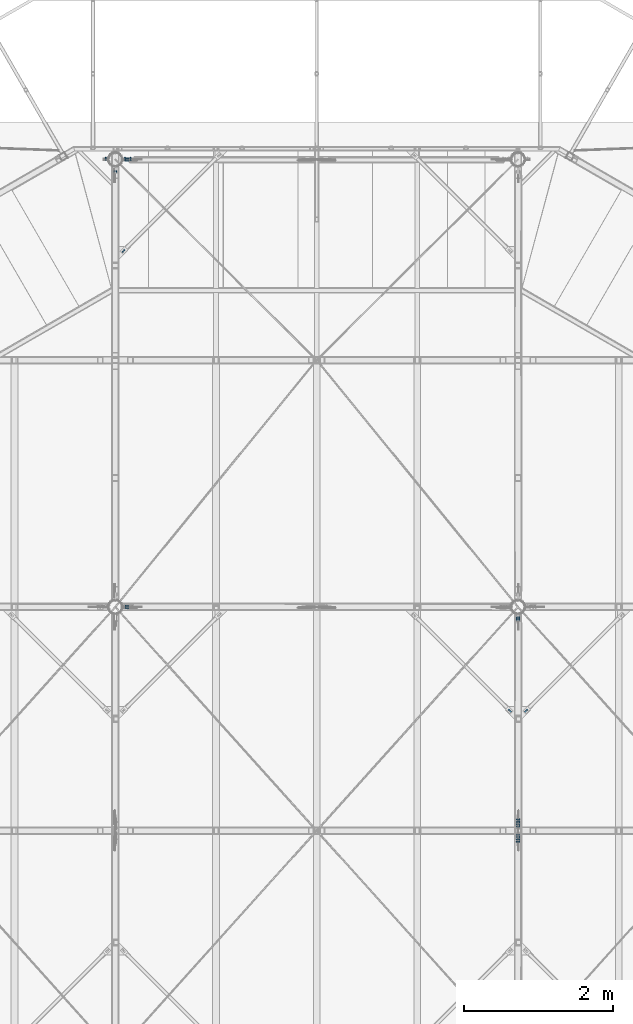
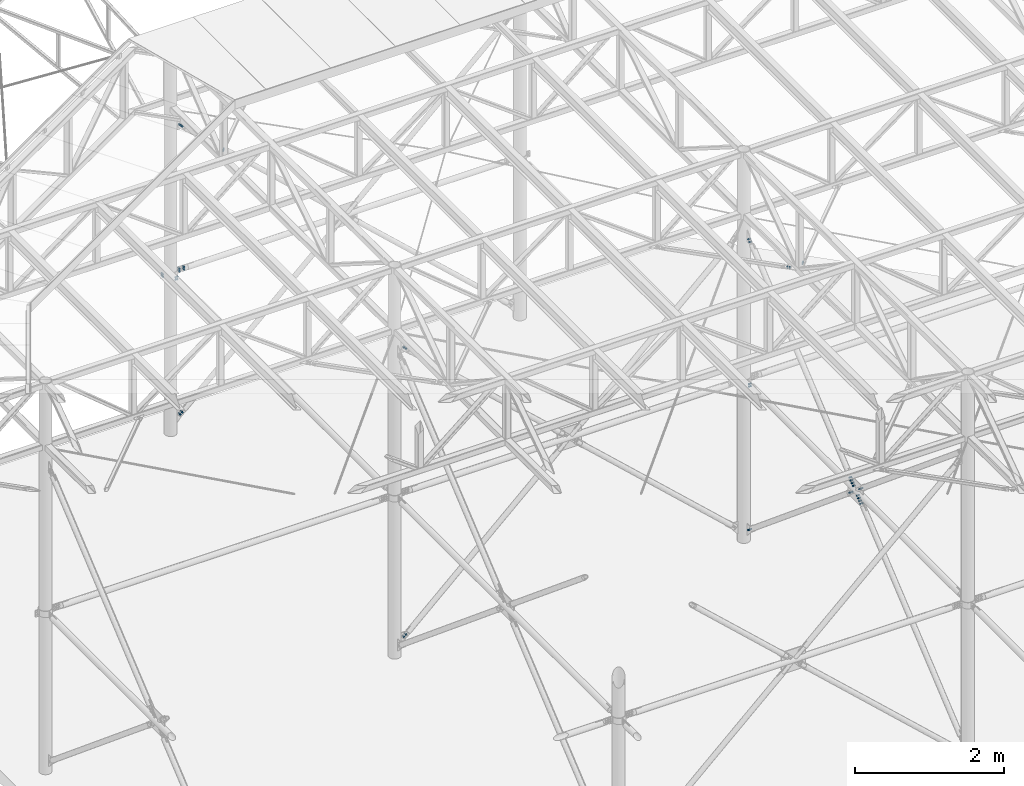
# One storey, part 122 of 132: 25 mechanical fasteners, 19 elements without a shape of their own.
"""IFC2X3 building model written with IfcOpenShell, lengths in millimetres."""

from ifc_helpers import new_model, si_unit, frame, origin_with_axes, origin_2d_with_axis, place, context, subcontext, project, spatial, polyline, circle, outline, extrude, source, transform, mapped, material, type_object, element, aggregate, save


model = new_model("IFC2X3")

# Units and contexts
model_context = context("Model", 3, precision=1e-05, world=origin_with_axes())
body_context = subcontext(model_context, "Body", "Model", "MODEL_VIEW")
ifc_project = project(units=[si_unit("LENGTHUNIT", "METRE", prefix="MILLI"), si_unit("AREAUNIT", "SQUARE_METRE"), si_unit("VOLUMEUNIT", "CUBIC_METRE"), si_unit("MASSUNIT", "GRAM", prefix="KILO"), si_unit("TIMEUNIT", "SECOND"), si_unit("PLANEANGLEUNIT", "RADIAN"), si_unit("SOLIDANGLEUNIT", "STERADIAN"), si_unit("THERMODYNAMICTEMPERATUREUNIT", "DEGREE_CELSIUS"), si_unit("LUMINOUSINTENSITYUNIT", "LUMEN")], contexts=[model_context])

# Site, building, storey
site_placement = place(None, origin_with_axes())
site = spatial("IfcSite", under=ifc_project, at=site_placement, Name="Budowa", CompositionType="ELEMENT")
building_placement = place(site_placement, origin_with_axes())
building = spatial("IfcBuilding", under=site, at=building_placement, Name="Undefined", CompositionType="ELEMENT")
storey_placement = place(building_placement, origin_with_axes())
storey = spatial("IfcBuildingStorey", under=building, at=storey_placement, Name="Undefined", CompositionType="ELEMENT", Elevation=0.0)

# Assembly, mechanical fastener
assembly_1_placement = place(storey_placement, origin_with_axes())
assembly_1 = element("IfcElementAssembly", 1, at=assembly_1_placement, inside=storey, Name="Steel Assembly", AssemblyPlace="NOTDEFINED", PredefinedType="RIGID_FRAME")
ifc_material = material(Name="Undefined")
discrete_accessory_type = type_object("IfcDiscreteAccessoryType", Name="Bolt assembly")
shared_shape_1 = source(origin_with_axes(), body_context, "Body", "SweptSolid", [
    extrude(circle(Radius=9.5, at=origin_2d_with_axis()), frame((0.0, -2.10099750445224, 0.0), z_axis=(0.0, 1.0, 0.0), x_axis=(1.0, 0.0, 0.0)), (0.0, 0.0, 1.0), 8.1),
    extrude(circle(Radius=9.5, at=origin_2d_with_axis()), frame((0.0, -9.9, 0.0), z_axis=(0.0, 1.0, 0.0), x_axis=(1.0, 0.0, 0.0)), (0.0, 0.0, 1.0), 8.0),
    extrude(outline(polyline([(13.85640646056, 0.0), (6.92820323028, 12.0000000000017), (-6.92820323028, 12.0000000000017), (-13.85640646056, 0.0), (-6.92820323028, -12.0000000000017), (6.92820323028, -12.0000000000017), (13.85640646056, 0.0)])), frame((0.0, -23.0, 0.0), z_axis=(0.0, 1.0, 0.0), x_axis=(1.0, 0.0, 0.0)), (0.0, 0.0, 1.0), 10.0),
    extrude(circle(Radius=8.0, at=origin_2d_with_axis()), frame((0.0, -13.0, 0.0), z_axis=(0.0, 1.0, 0.0), x_axis=(1.0, 0.0, 0.0)), (0.0, 0.0, 1.0), 45.0),
    extrude(circle(Radius=15.0, at=origin_2d_with_axis()), frame((0.0, -13.0, 0.0), z_axis=(0.0, 1.0, 0.0), x_axis=(1.0, 0.0, 0.0)), (0.0, 0.0, 1.0), 3.0),
    extrude(circle(Radius=15.0, at=origin_2d_with_axis()), frame((0.0, 5.99900249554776, 0.0), z_axis=(0.0, 1.0, 0.0), x_axis=(1.0, 0.0, 0.0)), (0.0, 0.0, 1.0), 3.0),
    extrude(outline(polyline([(13.85640646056, 0.0), (6.92820323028, 12.0000000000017), (-6.92820323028, 12.0000000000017), (-13.85640646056, 0.0), (-6.92820323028, -12.0000000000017), (6.92820323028, -12.0000000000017), (13.85640646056, 0.0)])), frame((0.0, 8.99900249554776, 0.0), z_axis=(0.0, 1.0, 0.0), x_axis=(1.0, 0.0, 0.0)), (0.0, 0.0, 1.0), 13.0),
])
mechanical_fastener_1_placement = place(assembly_1_placement, frame((9565.67385217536, 23997.9999975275, 12480.2102217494), z_axis=(0.678551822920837, 0.0, 0.734552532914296), x_axis=(0.734552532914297, 0.0, -0.678551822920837)))
mechanical_fastener_1 = element("IfcMechanicalFastener", 2, at=mechanical_fastener_1_placement, type_object=discrete_accessory_type, material=ifc_material, Name="Bolt assembly", NominalDiameter=16.0, NominalLength=45.0, context=body_context, shape_type="MappedRepresentation", body=[
    mapped(shared_shape_1, transform((0.0, 0.0, 0.0))),
    mapped(shared_shape_1, transform((40.0000000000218, 0.0, -1.81898940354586e-12))),
])

assembly_2_placement = place(storey_placement, origin_with_axes())
assembly_2 = element("IfcElementAssembly", 3, at=assembly_2_placement, inside=storey, Name="Steel Assembly", AssemblyPlace="NOTDEFINED", PredefinedType="RIGID_FRAME")
mechanical_fastener_2_placement = place(assembly_2_placement, frame((9565.67385240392, 23997.9999976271, 7751.79053481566), z_axis=(-0.678551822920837, 0.0, 0.734552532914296), x_axis=(0.734552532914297, 0.0, 0.678551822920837)))
mechanical_fastener_2 = element("IfcMechanicalFastener", 4, at=mechanical_fastener_2_placement, type_object=discrete_accessory_type, material=ifc_material, Name="Bolt assembly", NominalDiameter=16.0, NominalLength=45.0, context=body_context, shape_type="MappedRepresentation", body=[
    mapped(shared_shape_1, transform((0.0, 0.0, 0.0))),
    mapped(shared_shape_1, transform((40.0000000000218, 0.0, -1.81898940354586e-12))),
])

assembly_3_placement = place(storey_placement, origin_with_axes())
assembly_3 = element("IfcElementAssembly", 5, at=assembly_3_placement, inside=storey, Name="Steel Assembly", AssemblyPlace="NOTDEFINED", PredefinedType="RIGID_FRAME")
shared_shape_2 = source(origin_with_axes(), body_context, "Body", "SweptSolid", [
    extrude(circle(Radius=9.5, at=origin_2d_with_axis()), frame((0.0, -2.1, 0.0), z_axis=(0.0, 1.0, 0.0), x_axis=(1.0, 0.0, 0.0)), (0.0, 0.0, 1.0), 8.1),
    extrude(circle(Radius=9.5, at=origin_2d_with_axis()), frame((0.0, -11.9, 0.0), z_axis=(0.0, 1.0, 0.0), x_axis=(1.0, 0.0, 0.0)), (0.0, 0.0, 1.0), 8.0),
    extrude(outline(polyline([(13.85640646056, 0.0), (6.92820323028, 12.0000000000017), (-6.92820323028, 12.0000000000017), (-13.85640646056, 0.0), (-6.92820323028, -12.0000000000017), (6.92820323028, -12.0000000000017), (13.85640646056, 0.0)])), frame((0.0, -25.0, 0.0), z_axis=(0.0, 1.0, 0.0), x_axis=(1.0, 0.0, 0.0)), (0.0, 0.0, 1.0), 10.0),
    extrude(circle(Radius=8.0, at=origin_2d_with_axis()), frame((0.0, -15.0, 0.0), z_axis=(0.0, 1.0, 0.0), x_axis=(1.0, 0.0, 0.0)), (0.0, 0.0, 1.0), 45.0),
    extrude(circle(Radius=15.0, at=origin_2d_with_axis()), frame((0.0, -15.0, 0.0), z_axis=(0.0, 1.0, 0.0), x_axis=(1.0, 0.0, 0.0)), (0.0, 0.0, 1.0), 3.0),
    extrude(circle(Radius=15.0, at=origin_2d_with_axis()), frame((0.0, 6.0, 0.0), z_axis=(0.0, 1.0, 0.0), x_axis=(1.0, 0.0, 0.0)), (0.0, 0.0, 1.0), 3.0),
    extrude(outline(polyline([(13.85640646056, 0.0), (6.92820323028, 12.0000000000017), (-6.92820323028, 12.0000000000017), (-13.85640646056, 0.0), (-6.92820323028, -12.0000000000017), (6.92820323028, -12.0000000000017), (13.85640646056, 0.0)])), frame((0.0, 9.0, 0.0), z_axis=(0.0, 1.0, 0.0), x_axis=(1.0, 0.0, 0.0)), (0.0, 0.0, 1.0), 13.0),
])
mechanical_fastener_3_placement = place(assembly_3_placement, frame((9565.67385240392, 23997.9999976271, 7751.79053481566), z_axis=(-0.678551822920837, 0.0, 0.734552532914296), x_axis=(0.734552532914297, 0.0, 0.678551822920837)))
mechanical_fastener_3 = element("IfcMechanicalFastener", 6, at=mechanical_fastener_3_placement, type_object=discrete_accessory_type, material=ifc_material, Name="Bolt assembly", NominalDiameter=16.0, NominalLength=45.0, context=body_context, shape_type="MappedRepresentation", body=[
    mapped(shared_shape_2, transform((0.0, 0.0, 0.0))),
    mapped(shared_shape_2, transform((40.0000000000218, 0.0, -1.81898940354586e-12))),
])
aggregate(assembly_3, [mechanical_fastener_3])

assembly_4_placement = place(storey_placement, origin_with_axes())
assembly_4 = element("IfcElementAssembly", 7, at=assembly_4_placement, inside=storey, Name="Steel Assembly", AssemblyPlace="NOTDEFINED", PredefinedType="RIGID_FRAME")
mechanical_fastener_4_placement = place(assembly_4_placement, frame((9565.67385217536, 23997.9999975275, 12480.2102217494), z_axis=(0.678551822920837, 0.0, 0.734552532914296), x_axis=(0.734552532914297, 0.0, -0.678551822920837)))
mechanical_fastener_4 = element("IfcMechanicalFastener", 8, at=mechanical_fastener_4_placement, type_object=discrete_accessory_type, material=ifc_material, Name="Bolt assembly", NominalDiameter=16.0, NominalLength=45.0, context=body_context, shape_type="MappedRepresentation", body=[
    mapped(shared_shape_2, transform((0.0, 0.0, 0.0))),
    mapped(shared_shape_2, transform((40.0000000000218, 0.0, -1.81898940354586e-12))),
])
aggregate(assembly_4, [mechanical_fastener_4])

assembly_5_placement = place(storey_placement, origin_with_axes())
assembly_5 = element("IfcElementAssembly", 9, at=assembly_5_placement, inside=storey, Name="Steel Assembly", AssemblyPlace="NOTDEFINED", PredefinedType="RIGID_FRAME")
shared_shape_3 = source(origin_with_axes(), body_context, "Body", "SweptSolid", [
    extrude(circle(Radius=9.5, at=origin_2d_with_axis()), frame((0.0, -4.09999999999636, 0.0), z_axis=(0.0, 1.0, 0.0), x_axis=(1.0, 0.0, 0.0)), (0.0, 0.0, 1.0), 8.1),
    extrude(circle(Radius=9.5, at=origin_2d_with_axis()), frame((0.0, -11.9, 0.0), z_axis=(0.0, 1.0, 0.0), x_axis=(1.0, 0.0, 0.0)), (0.0, 0.0, 1.0), 8.0),
    extrude(outline(polyline([(13.85640646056, 0.0), (6.92820323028, 12.0000000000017), (-6.92820323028, 12.0000000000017), (-13.85640646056, 0.0), (-6.92820323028, -12.0000000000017), (6.92820323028, -12.0000000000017), (13.85640646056, 0.0)])), frame((0.0, -25.0, 0.0), z_axis=(0.0, 1.0, 0.0), x_axis=(1.0, 0.0, 0.0)), (0.0, 0.0, 1.0), 10.0),
    extrude(circle(Radius=8.0, at=origin_2d_with_axis()), frame((0.0, -15.0, 0.0), z_axis=(0.0, 1.0, 0.0), x_axis=(1.0, 0.0, 0.0)), (0.0, 0.0, 1.0), 40.0),
    extrude(circle(Radius=15.0, at=origin_2d_with_axis()), frame((0.0, -15.0, 0.0), z_axis=(0.0, 1.0, 0.0), x_axis=(1.0, 0.0, 0.0)), (0.0, 0.0, 1.0), 3.0),
    extrude(circle(Radius=15.0, at=origin_2d_with_axis()), frame((0.0, 4.0, 0.0), z_axis=(0.0, 1.0, 0.0), x_axis=(1.0, 0.0, 0.0)), (0.0, 0.0, 1.0), 3.0),
    extrude(outline(polyline([(13.85640646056, 0.0), (6.92820323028, 12.0000000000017), (-6.92820323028, 12.0000000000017), (-13.85640646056, 0.0), (-6.92820323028, -12.0000000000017), (6.92820323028, -12.0000000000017), (13.85640646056, 0.0)])), frame((0.0, 7.0, 0.0), z_axis=(0.0, 1.0, 0.0), x_axis=(1.0, 0.0, 0.0)), (0.0, 0.0, 1.0), 13.0),
])
mechanical_fastener_5_placement = place(assembly_5_placement, frame((14824.9999991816, 14882.440705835, 10018.2969084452), z_axis=(0.0, 0.639165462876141, -0.769069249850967), x_axis=(0.0, -0.769069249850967, -0.639165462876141)))
mechanical_fastener_5 = element("IfcMechanicalFastener", 10, at=mechanical_fastener_5_placement, type_object=discrete_accessory_type, material=ifc_material, Name="Bolt assembly", NominalDiameter=16.0, NominalLength=40.0, context=body_context, shape_type="MappedRepresentation", body=[
    mapped(shared_shape_3, transform((0.0, 0.0, 0.0))),
    mapped(shared_shape_3, transform((40.0000000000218, 0.0, -1.81898940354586e-12))),
])
aggregate(assembly_5, [mechanical_fastener_5])

assembly_6_placement = place(storey_placement, origin_with_axes())
assembly_6 = element("IfcElementAssembly", 11, at=assembly_6_placement, inside=storey, Name="Steel Assembly", AssemblyPlace="NOTDEFINED", PredefinedType="RIGID_FRAME")
mechanical_fastener_6_placement = place(assembly_6_placement, frame((14824.9999991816, 15117.5614380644, 10018.2969140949), z_axis=(0.0, 0.639165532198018, 0.76906919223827), x_axis=(0.0, 0.769069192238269, -0.639165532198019)))
mechanical_fastener_6 = element("IfcMechanicalFastener", 12, at=mechanical_fastener_6_placement, type_object=discrete_accessory_type, material=ifc_material, Name="Bolt assembly", NominalDiameter=16.0, NominalLength=40.0, context=body_context, shape_type="MappedRepresentation", body=[
    mapped(shared_shape_3, transform((0.0, 0.0, 0.0))),
    mapped(shared_shape_3, transform((40.0000000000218, 0.0, -1.81898940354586e-12))),
])

assembly_7_placement = place(storey_placement, origin_with_axes())
assembly_7 = element("IfcElementAssembly", 13, at=assembly_7_placement, inside=storey, Name="Steel Assembly", AssemblyPlace="NOTDEFINED", PredefinedType="RIGID_FRAME")
mechanical_fastener_7_placement = place(assembly_7_placement, frame((14824.9999994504, 15117.562089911, 10213.7038472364), z_axis=(0.0, -0.639165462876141, 0.769069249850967), x_axis=(0.0, 0.769069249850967, 0.639165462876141)))
mechanical_fastener_7 = element("IfcMechanicalFastener", 14, at=mechanical_fastener_7_placement, type_object=discrete_accessory_type, material=ifc_material, Name="Bolt assembly", NominalDiameter=16.0, NominalLength=40.0, context=body_context, shape_type="MappedRepresentation", body=[
    mapped(shared_shape_3, transform((0.0, 0.0, 0.0))),
    mapped(shared_shape_3, transform((40.0000000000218, 0.0, -1.81898940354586e-12))),
])

assembly_8_placement = place(storey_placement, origin_with_axes())
assembly_8 = element("IfcElementAssembly", 15, at=assembly_8_placement, inside=storey, Name="Steel Assembly", AssemblyPlace="NOTDEFINED", PredefinedType="RIGID_FRAME")
mechanical_fastener_8_placement = place(assembly_8_placement, frame((14824.9999994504, 14882.4401083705, 10213.7038442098), z_axis=(0.0, -0.63916553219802, -0.769069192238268), x_axis=(0.0, -0.76906919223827, 0.639165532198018)))
mechanical_fastener_8 = element("IfcMechanicalFastener", 16, at=mechanical_fastener_8_placement, type_object=discrete_accessory_type, material=ifc_material, Name="Bolt assembly", NominalDiameter=16.0, NominalLength=40.0, context=body_context, shape_type="MappedRepresentation", body=[
    mapped(shared_shape_3, transform((0.0, 0.0, 0.0))),
    mapped(shared_shape_3, transform((40.0000000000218, 0.0, -1.81898940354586e-12))),
])
aggregate(assembly_8, [mechanical_fastener_8])

# Mechanical fastener
shared_shape_4 = source(origin_with_axes(), body_context, "Body", "SweptSolid", [
    extrude(circle(Radius=9.0, at=origin_2d_with_axis()), frame((0.0, 0.0, 0.0), z_axis=(0.0, 1.0, 0.0), x_axis=(1.0, 0.0, 0.0)), (0.0, 0.0, 1.0), 8.1),
    extrude(outline(polyline([(13.85640646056, 0.0), (6.92820323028, 12.0000000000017), (-6.92820323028, 12.0000000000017), (-13.85640646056, 0.0), (-6.92820323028, -12.0000000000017), (6.92820323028, -12.0000000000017), (13.85640646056, 0.0)])), frame((0.0, -13.0, 0.0), z_axis=(0.0, 1.0, 0.0), x_axis=(1.0, 0.0, 0.0)), (0.0, 0.0, 1.0), 10.0),
    extrude(circle(Radius=8.0, at=origin_2d_with_axis()), frame((0.0, -2.99999999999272, 0.0), z_axis=(0.0, 1.0, 0.0), x_axis=(1.0, 0.0, 0.0)), (0.0, 0.0, 1.0), 40.0),
    extrude(circle(Radius=15.0, at=origin_2d_with_axis()), frame((0.0, -2.99999999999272, 0.0), z_axis=(0.0, 1.0, 0.0), x_axis=(1.0, 0.0, 0.0)), (0.0, 0.0, 1.0), 3.0),
    extrude(circle(Radius=15.0, at=origin_2d_with_axis()), frame((0.0, 8.00000000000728, 0.0), z_axis=(0.0, 1.0, 0.0), x_axis=(1.0, 0.0, 0.0)), (0.0, 0.0, 1.0), 3.0),
    extrude(outline(polyline([(13.85640646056, 0.0), (6.92820323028, 12.0000000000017), (-6.92820323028, 12.0000000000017), (-13.85640646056, 0.0), (-6.92820323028, -12.0000000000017), (6.92820323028, -12.0000000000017), (13.85640646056, 0.0)])), frame((0.0, 11.0000000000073, 0.0), z_axis=(0.0, 1.0, 0.0), x_axis=(1.0, 0.0, 0.0)), (0.0, 0.0, 1.0), 13.0),
])
mechanical_fastener_9_placement = place(assembly_2_placement, frame((9628.13669408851, 23993.9999994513, 10096.0003779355), z_axis=(-1.0, 0.0, 0.0), x_axis=(0.0, 0.0, 1.0)))
mechanical_fastener_9 = element("IfcMechanicalFastener", 17, at=mechanical_fastener_9_placement, type_object=discrete_accessory_type, material=ifc_material, Name="Bolt assembly", NominalDiameter=16.0, NominalLength=40.0, context=body_context, shape_type="MappedRepresentation", body=[
    mapped(shared_shape_4, transform((0.0, 0.0, 0.0))),
    mapped(shared_shape_4, transform((40.0000000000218, 0.0, -1.81898940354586e-12))),
])

# Assembly, mechanical fastener
assembly_9_placement = place(storey_placement, origin_with_axes())
assembly_9 = element("IfcElementAssembly", 18, at=assembly_9_placement, inside=storey, Name="Steel Assembly", AssemblyPlace="NOTDEFINED", PredefinedType="RIGID_FRAME")
shared_shape_5 = source(origin_with_axes(), body_context, "Body", "SweptSolid", [
    extrude(circle(Radius=9.0, at=origin_2d_with_axis()), frame((0.0, 0.0999999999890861, 0.0), z_axis=(0.0, 1.0, 0.0), x_axis=(1.0, 0.0, 0.0)), (0.0, 0.0, 1.0), 8.0),
    extrude(circle(Radius=9.0, at=origin_2d_with_axis()), frame((0.0, 11.9000000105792, 0.0), z_axis=(0.0, 1.0, 0.0), x_axis=(1.0, 0.0, 0.0)), (0.0, 0.0, 1.0), 8.1),
    extrude(outline(polyline([(13.85640646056, 0.0), (6.92820323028, 12.0000000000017), (-6.92820323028, 12.0000000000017), (-13.85640646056, 0.0), (-6.92820323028, -12.0000000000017), (6.92820323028, -12.0000000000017), (13.85640646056, 0.0)])), frame((0.0, -13.0, 0.0), z_axis=(0.0, 1.0, 0.0), x_axis=(1.0, 0.0, 0.0)), (0.0, 0.0, 1.0), 10.0),
    extrude(circle(Radius=8.0, at=origin_2d_with_axis()), frame((0.0, -2.99999999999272, 0.0), z_axis=(0.0, 1.0, 0.0), x_axis=(1.0, 0.0, 0.0)), (0.0, 0.0, 1.0), 45.0),
    extrude(circle(Radius=15.0, at=origin_2d_with_axis()), frame((0.0, -2.99999999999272, 0.0), z_axis=(0.0, 1.0, 0.0), x_axis=(1.0, 0.0, 0.0)), (0.0, 0.0, 1.0), 3.0),
    extrude(circle(Radius=15.0, at=origin_2d_with_axis()), frame((0.0, 20.0000000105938, 0.0), z_axis=(0.0, 1.0, 0.0), x_axis=(1.0, 0.0, 0.0)), (0.0, 0.0, 1.0), 3.0),
    extrude(outline(polyline([(13.85640646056, 0.0), (6.92820323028, 12.0000000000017), (-6.92820323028, 12.0000000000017), (-13.85640646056, 0.0), (-6.92820323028, -12.0000000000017), (6.92820323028, -12.0000000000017), (13.85640646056, 0.0)])), frame((0.0, 23.0000000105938, 0.0), z_axis=(0.0, 1.0, 0.0), x_axis=(1.0, 0.0, 0.0)), (0.0, 0.0, 1.0), 13.0),
])
mechanical_fastener_10_placement = place(assembly_9_placement, frame((9296.86328710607, 23990.000000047, 10096.0003779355), z_axis=(-1.0, 0.0, 0.0), x_axis=(0.0, 0.0, 1.0)))
mechanical_fastener_10 = element("IfcMechanicalFastener", 19, at=mechanical_fastener_10_placement, type_object=discrete_accessory_type, material=ifc_material, Name="Bolt assembly", NominalDiameter=16.0, NominalLength=45.0, context=body_context, shape_type="MappedRepresentation", body=[
    mapped(shared_shape_5, transform((0.0, 0.0, 0.0))),
    mapped(shared_shape_5, transform((40.0000000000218, 0.0, -1.81898940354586e-12))),
])

assembly_10_placement = place(storey_placement, origin_with_axes())
assembly_10 = element("IfcElementAssembly", 20, at=assembly_10_placement, inside=storey, Name="Steel Assembly", AssemblyPlace="NOTDEFINED", PredefinedType="RIGID_FRAME")
shared_shape_6 = source(origin_with_axes(), body_context, "Body", "SweptSolid", [
    extrude(circle(Radius=9.0, at=origin_2d_with_axis()), frame((0.0, -4.09999999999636, 0.0), z_axis=(0.0, 1.0, 0.0), x_axis=(1.0, 0.0, 0.0)), (0.0, 0.0, 1.0), 8.1),
    extrude(circle(Radius=9.0, at=origin_2d_with_axis()), frame((0.0, -11.9, 0.0), z_axis=(0.0, 1.0, 0.0), x_axis=(1.0, 0.0, 0.0)), (0.0, 0.0, 1.0), 8.0),
    extrude(outline(polyline([(13.85640646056, 0.0), (6.92820323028, 12.0000000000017), (-6.92820323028, 12.0000000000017), (-13.85640646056, 0.0), (-6.92820323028, -12.0000000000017), (6.92820323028, -12.0000000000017), (13.85640646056, 0.0)])), frame((0.0, -25.0, 0.0), z_axis=(0.0, 1.0, 0.0), x_axis=(1.0, 0.0, 0.0)), (0.0, 0.0, 1.0), 10.0),
    extrude(circle(Radius=8.0, at=origin_2d_with_axis()), frame((0.0, -15.0, 0.0), z_axis=(0.0, 1.0, 0.0), x_axis=(1.0, 0.0, 0.0)), (0.0, 0.0, 1.0), 40.0),
    extrude(circle(Radius=15.0, at=origin_2d_with_axis()), frame((0.0, -15.0, 0.0), z_axis=(0.0, 1.0, 0.0), x_axis=(1.0, 0.0, 0.0)), (0.0, 0.0, 1.0), 3.0),
    extrude(circle(Radius=15.0, at=origin_2d_with_axis()), frame((0.0, 4.0, 0.0), z_axis=(0.0, 1.0, 0.0), x_axis=(1.0, 0.0, 0.0)), (0.0, 0.0, 1.0), 3.0),
    extrude(outline(polyline([(13.85640646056, 0.0), (6.92820323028, 12.0000000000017), (-6.92820323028, 12.0000000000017), (-13.85640646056, 0.0), (-6.92820323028, -12.0000000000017), (6.92820323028, -12.0000000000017), (13.85640646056, 0.0)])), frame((0.0, 7.0, 0.0), z_axis=(0.0, 1.0, 0.0), x_axis=(1.0, 0.0, 0.0)), (0.0, 0.0, 1.0), 13.0),
])
mechanical_fastener_11_placement = place(assembly_10_placement, frame((9425.00000249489, 23842.0920947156, 10116.0003779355), z_axis=(0.0, 0.0, 1.0), x_axis=(0.0, -1.0, 0.0)))
mechanical_fastener_11 = element("IfcMechanicalFastener", 21, at=mechanical_fastener_11_placement, type_object=discrete_accessory_type, material=ifc_material, Name="Bolt assembly", NominalDiameter=16.0, NominalLength=40.0, context=body_context, shape_type="MappedRepresentation", body=[
    mapped(shared_shape_6, transform((0.0, 0.0, -20.0))),
    mapped(shared_shape_6, transform((0.0, 0.0, 20.0))),
])
aggregate(assembly_10, [mechanical_fastener_11])

# Mechanical fastener
mechanical_fastener_12_placement = place(assembly_6_placement, frame((14825.0000000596, 17859.8220601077, 7739.23218545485), z_axis=(0.0, -0.63916553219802, -0.769069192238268), x_axis=(0.0, -0.76906919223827, 0.639165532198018)))
mechanical_fastener_12 = element("IfcMechanicalFastener", 22, at=mechanical_fastener_12_placement, type_object=discrete_accessory_type, material=ifc_material, Name="Bolt assembly", NominalDiameter=16.0, NominalLength=40.0, context=body_context, shape_type="MappedRepresentation", body=[
    mapped(shared_shape_6, transform((0.0, 0.0, 0.0))),
    mapped(shared_shape_6, transform((40.0000000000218, 0.0, -1.81898940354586e-12))),
])

aggregate(assembly_6, [mechanical_fastener_12, mechanical_fastener_6])

mechanical_fastener_13_placement = place(assembly_7_placement, frame((14825.0000000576, 17859.822059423, 12492.7676156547), z_axis=(0.0, 0.639165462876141, -0.769069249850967), x_axis=(0.0, -0.769069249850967, -0.639165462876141)))
mechanical_fastener_13 = element("IfcMechanicalFastener", 23, at=mechanical_fastener_13_placement, type_object=discrete_accessory_type, material=ifc_material, Name="Bolt assembly", NominalDiameter=16.0, NominalLength=40.0, context=body_context, shape_type="MappedRepresentation", body=[
    mapped(shared_shape_6, transform((0.0, 0.0, 0.0))),
    mapped(shared_shape_6, transform((40.0000000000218, 0.0, -1.81898940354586e-12))),
])

aggregate(assembly_7, [mechanical_fastener_13, mechanical_fastener_7])

# Assembly, mechanical fastener
assembly_11_placement = place(storey_placement, origin_with_axes())
assembly_11 = element("IfcElementAssembly", 24, at=assembly_11_placement, inside=storey, Name="Steel Assembly", AssemblyPlace="NOTDEFINED", PredefinedType="RIGID_FRAME")
mechanical_fastener_14_placement = place(assembly_11_placement, frame((14824.9999972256, 17842.0920947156, 10116.0003779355), z_axis=(0.0, 0.0, -1.0), x_axis=(0.0, -1.0, 0.0)))
mechanical_fastener_14 = element("IfcMechanicalFastener", 25, at=mechanical_fastener_14_placement, type_object=discrete_accessory_type, material=ifc_material, Name="Bolt assembly", NominalDiameter=16.0, NominalLength=40.0, context=body_context, shape_type="MappedRepresentation", body=[
    mapped(shared_shape_6, transform((0.0, 0.0, -20.0))),
    mapped(shared_shape_6, transform((0.0, 0.0, 20.0))),
])
aggregate(assembly_11, [mechanical_fastener_14])

assembly_12_placement = place(storey_placement, origin_with_axes())
assembly_12 = element("IfcElementAssembly", 26, at=assembly_12_placement, inside=storey, Name="Steel Assembly", AssemblyPlace="NOTDEFINED", PredefinedType="RIGID_FRAME")
mechanical_fastener_15_placement = place(assembly_12_placement, frame((14825.0000000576, 14945.0515198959, 10070.3321054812), z_axis=(0.0, 0.639165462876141, -0.769069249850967), x_axis=(0.0, -0.769069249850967, -0.639165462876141)))
mechanical_fastener_15 = element("IfcMechanicalFastener", 27, at=mechanical_fastener_15_placement, type_object=discrete_accessory_type, material=ifc_material, Name="Bolt assembly", NominalDiameter=16.0, NominalLength=40.0, context=body_context, shape_type="MappedRepresentation", body=[
    mapped(shared_shape_6, transform((0.0, 0.0, 0.0))),
    mapped(shared_shape_6, transform((40.0000000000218, 0.0, -1.81898940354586e-12))),
])
aggregate(assembly_12, [mechanical_fastener_15])

assembly_13_placement = place(storey_placement, origin_with_axes())
assembly_13 = element("IfcElementAssembly", 28, at=assembly_13_placement, inside=storey, Name="Steel Assembly", AssemblyPlace="NOTDEFINED", PredefinedType="RIGID_FRAME")
mechanical_fastener_16_placement = place(assembly_13_placement, frame((14824.9999998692, 15054.9506530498, 10161.6681325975), z_axis=(0.0, -0.639165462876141, 0.769069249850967), x_axis=(0.0, 0.769069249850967, 0.639165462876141)))
mechanical_fastener_16 = element("IfcMechanicalFastener", 29, at=mechanical_fastener_16_placement, type_object=discrete_accessory_type, material=ifc_material, Name="Bolt assembly", NominalDiameter=16.0, NominalLength=40.0, context=body_context, shape_type="MappedRepresentation", body=[
    mapped(shared_shape_6, transform((0.0, 0.0, 0.0))),
    mapped(shared_shape_6, transform((40.0000000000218, 0.0, -1.81898940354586e-12))),
])
aggregate(assembly_13, [mechanical_fastener_16])

# Mechanical fastener
mechanical_fastener_17_placement = place(assembly_2_placement, frame((9565.67385234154, 23999.9999976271, 7751.79053475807), z_axis=(-0.678551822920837, 0.0, 0.734552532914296), x_axis=(0.734552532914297, 0.0, 0.678551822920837)))
mechanical_fastener_17 = element("IfcMechanicalFastener", 30, at=mechanical_fastener_17_placement, type_object=discrete_accessory_type, material=ifc_material, Name="Bolt assembly", NominalDiameter=16.0, NominalLength=40.0, context=body_context, shape_type="MappedRepresentation", body=[
    mapped(shared_shape_6, transform((0.0, 0.0, 0.0))),
    mapped(shared_shape_6, transform((40.0000000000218, 0.0, -1.81898940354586e-12))),
])

aggregate(assembly_2, [mechanical_fastener_2, mechanical_fastener_9, mechanical_fastener_17])

mechanical_fastener_18_placement = place(assembly_1_placement, frame((9565.67385211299, 23999.9999975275, 12480.210221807), z_axis=(0.678551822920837, 0.0, 0.734552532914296), x_axis=(0.734552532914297, 0.0, -0.678551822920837)))
mechanical_fastener_18 = element("IfcMechanicalFastener", 31, at=mechanical_fastener_18_placement, type_object=discrete_accessory_type, material=ifc_material, Name="Bolt assembly", NominalDiameter=16.0, NominalLength=40.0, context=body_context, shape_type="MappedRepresentation", body=[
    mapped(shared_shape_6, transform((0.0, 0.0, 0.0))),
    mapped(shared_shape_6, transform((40.0000000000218, 0.0, -1.81898940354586e-12))),
])

aggregate(assembly_1, [mechanical_fastener_1, mechanical_fastener_18])

# Assembly, mechanical fastener
assembly_14_placement = place(storey_placement, origin_with_axes())
assembly_14 = element("IfcElementAssembly", 32, at=assembly_14_placement, inside=storey, Name="Steel Assembly", AssemblyPlace="NOTDEFINED", PredefinedType="RIGID_FRAME")
mechanical_fastener_19_placement = place(assembly_14_placement, frame((9565.67385234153, 17999.9999976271, 7751.79053475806), z_axis=(-0.678551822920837, 0.0, 0.734552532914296), x_axis=(0.734552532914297, 0.0, 0.678551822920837)))
mechanical_fastener_19 = element("IfcMechanicalFastener", 33, at=mechanical_fastener_19_placement, type_object=discrete_accessory_type, material=ifc_material, Name="Bolt assembly", NominalDiameter=16.0, NominalLength=40.0, context=body_context, shape_type="MappedRepresentation", body=[
    mapped(shared_shape_6, transform((0.0, 0.0, 0.0))),
    mapped(shared_shape_6, transform((40.0000000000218, 0.0, -1.81898940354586e-12))),
])
aggregate(assembly_14, [mechanical_fastener_19])

assembly_15_placement = place(storey_placement, origin_with_axes())
assembly_15 = element("IfcElementAssembly", 34, at=assembly_15_placement, inside=storey, Name="Steel Assembly", AssemblyPlace="NOTDEFINED", PredefinedType="RIGID_FRAME")
mechanical_fastener_20_placement = place(assembly_15_placement, frame((9565.67385211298, 17999.9999975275, 12480.210221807), z_axis=(0.678551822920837, 0.0, 0.734552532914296), x_axis=(0.734552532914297, 0.0, -0.678551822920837)))
mechanical_fastener_20 = element("IfcMechanicalFastener", 35, at=mechanical_fastener_20_placement, type_object=discrete_accessory_type, material=ifc_material, Name="Bolt assembly", NominalDiameter=16.0, NominalLength=40.0, context=body_context, shape_type="MappedRepresentation", body=[
    mapped(shared_shape_6, transform((0.0, 0.0, 0.0))),
    mapped(shared_shape_6, transform((40.0000000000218, 0.0, -1.81898940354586e-12))),
])
aggregate(assembly_15, [mechanical_fastener_20])

# Mechanical fastener
shared_shape_7 = source(origin_with_axes(), body_context, "Body", "SweptSolid", [
    extrude(circle(Radius=9.0, at=origin_2d_with_axis()), frame((0.0, 0.0999999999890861, 0.0), z_axis=(0.0, 1.0, 0.0), x_axis=(1.0, 0.0, 0.0)), (0.0, 0.0, 1.0), 8.0),
    extrude(circle(Radius=9.0, at=origin_2d_with_axis()), frame((0.0, 7.9000007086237, 0.0), z_axis=(0.0, 1.0, 0.0), x_axis=(1.0, 0.0, 0.0)), (0.0, 0.0, 1.0), 8.1),
    extrude(outline(polyline([(13.85640646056, 0.0), (6.92820323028, 12.0000000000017), (-6.92820323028, 12.0000000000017), (-13.85640646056, 0.0), (-6.92820323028, -12.0000000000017), (6.92820323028, -12.0000000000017), (13.85640646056, 0.0)])), frame((0.0, -13.0, 0.0), z_axis=(0.0, 1.0, 0.0), x_axis=(1.0, 0.0, 0.0)), (0.0, 0.0, 1.0), 10.0),
    extrude(circle(Radius=8.0, at=origin_2d_with_axis()), frame((0.0, -2.99999999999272, 0.0), z_axis=(0.0, 1.0, 0.0), x_axis=(1.0, 0.0, 0.0)), (0.0, 0.0, 1.0), 40.0),
    extrude(circle(Radius=15.0, at=origin_2d_with_axis()), frame((0.0, -2.99999999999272, 0.0), z_axis=(0.0, 1.0, 0.0), x_axis=(1.0, 0.0, 0.0)), (0.0, 0.0, 1.0), 3.0),
    extrude(circle(Radius=15.0, at=origin_2d_with_axis()), frame((0.0, 16.0000007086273, 0.0), z_axis=(0.0, 1.0, 0.0), x_axis=(1.0, 0.0, 0.0)), (0.0, 0.0, 1.0), 3.0),
    extrude(outline(polyline([(13.85640646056, 0.0), (6.92820323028, 12.0000000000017), (-6.92820323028, 12.0000000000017), (-13.85640646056, 0.0), (-6.92820323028, -12.0000000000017), (6.92820323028, -12.0000000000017), (13.85640646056, 0.0)])), frame((0.0, 19.0000007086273, 0.0), z_axis=(0.0, 1.0, 0.0), x_axis=(1.0, 0.0, 0.0)), (0.0, 0.0, 1.0), 13.0),
])
mechanical_fastener_21_placement = place(assembly_9_placement, frame((9628.13669408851, 23993.9999994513, 10096.0003779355), z_axis=(-1.0, 0.0, 0.0), x_axis=(0.0, 0.0, 1.0)))
mechanical_fastener_21 = element("IfcMechanicalFastener", 36, at=mechanical_fastener_21_placement, type_object=discrete_accessory_type, material=ifc_material, Name="Bolt assembly", NominalDiameter=16.0, NominalLength=40.0, context=body_context, shape_type="MappedRepresentation", body=[
    mapped(shared_shape_7, transform((0.0, 0.0, 0.0))),
    mapped(shared_shape_7, transform((40.0000000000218, 0.0, -1.81898940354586e-12))),
])

aggregate(assembly_9, [mechanical_fastener_10, mechanical_fastener_21])

# Assembly, mechanical fastener
assembly_16_placement = place(storey_placement, origin_with_axes())
assembly_16 = element("IfcElementAssembly", 37, at=assembly_16_placement, inside=storey, Name="Steel Assembly", AssemblyPlace="NOTDEFINED", PredefinedType="RIGID_FRAME")
shared_shape_8 = source(origin_with_axes(), body_context, "Body", "SweptSolid", [
    extrude(circle(Radius=9.0, at=origin_2d_with_axis()), frame((0.0, 11.9000000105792, 0.0), z_axis=(0.0, 1.0, 0.0), x_axis=(1.0, 0.0, 0.0)), (0.0, 0.0, 1.0), 8.1),
    extrude(circle(Radius=9.0, at=origin_2d_with_axis()), frame((0.0, 0.0999999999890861, 0.0), z_axis=(0.0, 1.0, 0.0), x_axis=(1.0, 0.0, 0.0)), (0.0, 0.0, 1.0), 8.0),
    extrude(outline(polyline([(13.85640646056, 0.0), (6.92820323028, 12.0000000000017), (-6.92820323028, 12.0000000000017), (-13.85640646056, 0.0), (-6.92820323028, -12.0000000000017), (6.92820323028, -12.0000000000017), (13.85640646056, 0.0)])), frame((0.0, -13.0, 0.0), z_axis=(0.0, 1.0, 0.0), x_axis=(1.0, 0.0, 0.0)), (0.0, 0.0, 1.0), 10.0),
    extrude(circle(Radius=8.0, at=origin_2d_with_axis()), frame((0.0, -2.99999999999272, 0.0), z_axis=(0.0, 1.0, 0.0), x_axis=(1.0, 0.0, 0.0)), (0.0, 0.0, 1.0), 45.0),
    extrude(circle(Radius=15.0, at=origin_2d_with_axis()), frame((0.0, -2.99999999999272, 0.0), z_axis=(0.0, 1.0, 0.0), x_axis=(1.0, 0.0, 0.0)), (0.0, 0.0, 1.0), 3.0),
    extrude(circle(Radius=15.0, at=origin_2d_with_axis()), frame((0.0, 20.0000000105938, 0.0), z_axis=(0.0, 1.0, 0.0), x_axis=(1.0, 0.0, 0.0)), (0.0, 0.0, 1.0), 3.0),
    extrude(outline(polyline([(13.85640646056, 0.0), (6.92820323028, 12.0000000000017), (-6.92820323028, 12.0000000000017), (-13.85640646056, 0.0), (-6.92820323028, -12.0000000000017), (6.92820323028, -12.0000000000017), (13.85640646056, 0.0)])), frame((0.0, 23.0000000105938, 0.0), z_axis=(0.0, 1.0, 0.0), x_axis=(1.0, 0.0, 0.0)), (0.0, 0.0, 1.0), 13.0),
])
mechanical_fastener_22_placement = place(assembly_16_placement, frame((9553.1366940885, 23989.9999999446, 10096.0003779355), z_axis=(-1.0, 0.0, 0.0), x_axis=(0.0, 0.0, 1.0)))
mechanical_fastener_22 = element("IfcMechanicalFastener", 38, at=mechanical_fastener_22_placement, type_object=discrete_accessory_type, material=ifc_material, Name="Bolt assembly", NominalDiameter=16.0, NominalLength=45.0, context=body_context, shape_type="MappedRepresentation", body=[
    mapped(shared_shape_8, transform((0.0, 0.0, 0.0))),
    mapped(shared_shape_8, transform((40.0000000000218, 0.0, -1.81898940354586e-12))),
])
aggregate(assembly_16, [mechanical_fastener_22])

assembly_17_placement = place(storey_placement, origin_with_axes())
assembly_17 = element("IfcElementAssembly", 39, at=assembly_17_placement, inside=storey, Name="Steel Assembly", AssemblyPlace="NOTDEFINED", PredefinedType="RIGID_FRAME")
shared_shape_9 = source(origin_with_axes(), body_context, "Body", "SweptSolid", [
    extrude(circle(Radius=6.5, at=origin_2d_with_axis()), frame((0.0, -3.1, 0.0), z_axis=(0.0, 1.0, 0.0), x_axis=(1.0, 0.0, 0.0)), (0.0, 0.0, 1.0), 6.1),
    extrude(circle(Radius=6.5, at=origin_2d_with_axis()), frame((0.0, -8.9, 0.0), z_axis=(0.0, 1.0, 0.0), x_axis=(1.0, 0.0, 0.0)), (0.0, 0.0, 1.0), 6.0),
    extrude(outline(polyline([(10.39230484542, 0.0), (5.19615242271, 9.00000000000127), (-5.19615242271, 9.00000000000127), (-10.39230484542, 0.0), (-5.19615242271, -9.00000000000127), (5.19615242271, -9.00000000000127), (10.39230484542, 0.0)])), frame((0.0, -19.5, 0.0), z_axis=(0.0, 1.0, 0.0), x_axis=(1.0, 0.0, 0.0)), (0.0, 0.0, 1.0), 7.5),
    extrude(circle(Radius=6.0, at=origin_2d_with_axis()), frame((0.0, -12.0, 0.0), z_axis=(0.0, 1.0, 0.0), x_axis=(1.0, 0.0, 0.0)), (0.0, 0.0, 1.0), 35.0),
    extrude(circle(Radius=12.0, at=origin_2d_with_axis()), frame((0.0, -12.0, 0.0), z_axis=(0.0, 1.0, 0.0), x_axis=(1.0, 0.0, 0.0)), (0.0, 0.0, 1.0), 3.0),
    extrude(circle(Radius=12.0, at=origin_2d_with_axis()), frame((0.0, 3.0, 0.0), z_axis=(0.0, 1.0, 0.0), x_axis=(1.0, 0.0, 0.0)), (0.0, 0.0, 1.0), 3.0),
    extrude(outline(polyline([(10.96965511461, 0.0), (5.484827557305, 9.50000000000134), (-5.484827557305, 9.50000000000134), (-10.96965511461, 0.0), (-5.484827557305, -9.50000000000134), (5.484827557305, -9.50000000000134), (10.96965511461, 0.0)])), frame((0.0, 6.0, 0.0), z_axis=(0.0, 1.0, 0.0), x_axis=(1.0, 0.0, 0.0)), (0.0, 0.0, 1.0), 10.0),
])
mechanical_fastener_23_placement = place(assembly_17_placement, frame((9524.35534090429, 22764.2553410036, 12824.0), z_axis=(-0.707106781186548, 0.707106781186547, 0.0), x_axis=(0.707106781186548, 0.707106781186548, 0.0)))
mechanical_fastener_23 = element("IfcMechanicalFastener", 40, at=mechanical_fastener_23_placement, type_object=discrete_accessory_type, material=ifc_material, Name="Bolt assembly", NominalDiameter=12.0, NominalLength=35.0, context=body_context, shape_type="MappedRepresentation", body=[
    mapped(shared_shape_9, transform((0.0, 0.0, 0.0))),
    mapped(shared_shape_9, transform((29.9999999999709, 0.0, -1.16415321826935e-10))),
])
aggregate(assembly_17, [mechanical_fastener_23])

assembly_18_placement = place(storey_placement, origin_with_axes())
assembly_18 = element("IfcElementAssembly", 41, at=assembly_18_placement, inside=storey, Name="Steel Assembly", AssemblyPlace="NOTDEFINED", PredefinedType="RIGID_FRAME")
mechanical_fastener_24_placement = place(assembly_18_placement, frame((14924.3553409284, 16599.3553410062, 12824.0), z_axis=(-0.707106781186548, 0.707106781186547, 0.0), x_axis=(0.707106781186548, 0.707106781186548, 0.0)))
mechanical_fastener_24 = element("IfcMechanicalFastener", 42, at=mechanical_fastener_24_placement, type_object=discrete_accessory_type, material=ifc_material, Name="Bolt assembly", NominalDiameter=12.0, NominalLength=35.0, context=body_context, shape_type="MappedRepresentation", body=[
    mapped(shared_shape_9, transform((0.0, 0.0, 0.0))),
    mapped(shared_shape_9, transform((29.9999999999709, 0.0, -1.16415321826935e-10))),
])
aggregate(assembly_18, [mechanical_fastener_24])

assembly_19_placement = place(storey_placement, origin_with_axes())
assembly_19 = element("IfcElementAssembly", 43, at=assembly_19_placement, inside=storey, Name="Steel Assembly", AssemblyPlace="NOTDEFINED", PredefinedType="RIGID_FRAME")
mechanical_fastener_25_placement = place(assembly_19_placement, frame((14725.6446590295, 16599.3553409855, 12824.0), z_axis=(-0.70710678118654, -0.707106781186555, 0.0), x_axis=(-0.707106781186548, 0.707106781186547, 0.0)))
mechanical_fastener_25 = element("IfcMechanicalFastener", 44, at=mechanical_fastener_25_placement, type_object=discrete_accessory_type, material=ifc_material, Name="Bolt assembly", NominalDiameter=12.0, NominalLength=35.0, context=body_context, shape_type="MappedRepresentation", body=[
    mapped(shared_shape_9, transform((0.0, 0.0, 0.0))),
    mapped(shared_shape_9, transform((29.9999999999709, 0.0, -1.16415321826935e-10))),
])
aggregate(assembly_19, [mechanical_fastener_25])

save(model, "model.ifc")
